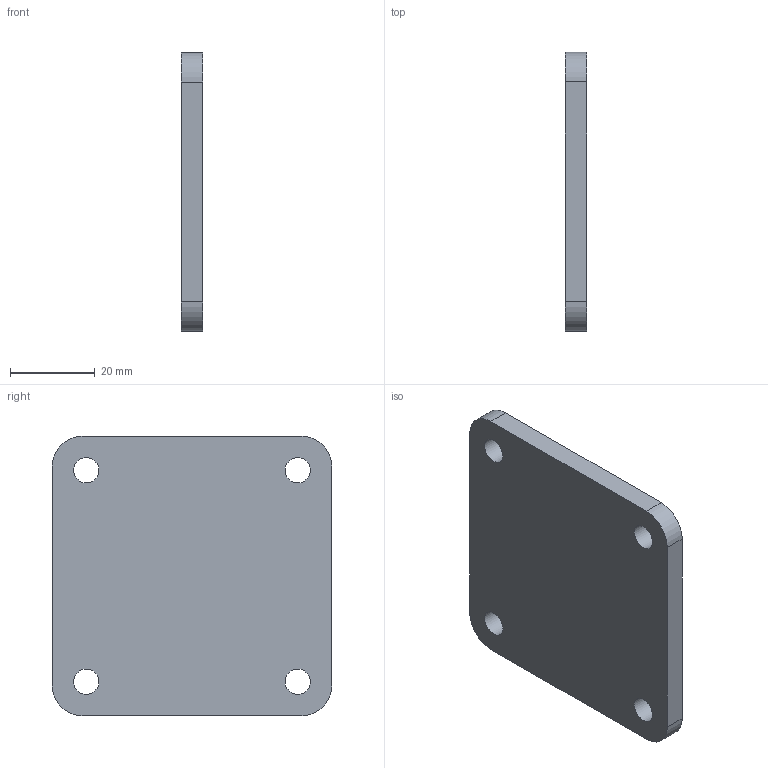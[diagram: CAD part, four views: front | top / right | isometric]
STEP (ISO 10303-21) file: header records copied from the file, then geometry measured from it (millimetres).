
FILE_DESCRIPTION(/* description */ ('Подножка'),/* implementation_level */ '2;1');
FILE_NAME(/* name */ 'D:\мои документы\Ирина\ЧЭнК\Конкурсы и олимпиады\WSR\WSR Задания разные\2016_11 Южный Урал\Day_2 - чертежи задание и критерии\Участнику\Детали и подсборки\Подножка.stp',/* time_stamp */ '2016-10-25T23:34:13+05:00',/* author */ ('Дом'),/* organization */ (''),/* preprocessor_version */ 'ST-DEVELOPER v16.5',/* originating_system */ 'Autodesk Inventor 2017',/* authorisation */ '');
FILE_SCHEMA (('AUTOMOTIVE_DESIGN { 1 0 10303 214 3 1 1 }'));
Length unit declared in the file: millimetre
Products named in the file (1): 2016.011.002.001
Bounding box: 5 x 66 x 66 mm (x, y, z)
Volume: 21004.2 mm3; surface area: 10038.6 mm2
Topology: 1 solids, 1 shells, 14 faces, 36 edges, 24 vertices
Faces by surface type: cylinder 8, plane 6
Full cylindrical faces by diameter (mm): 6 x4
Entity records: 456 total; most frequent: DIRECTION 78, CARTESIAN_POINT 71, ORIENTED_EDGE 64, EDGE_CURVE 32, AXIS2_PLACEMENT_3D 31, EDGE_LOOP 26, VERTEX_POINT 24, LINE 16
